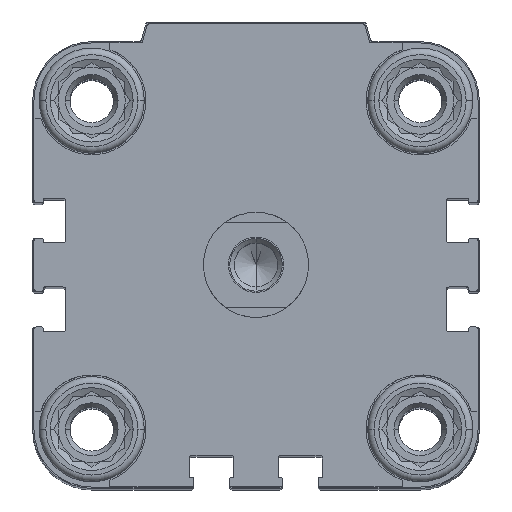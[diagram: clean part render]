
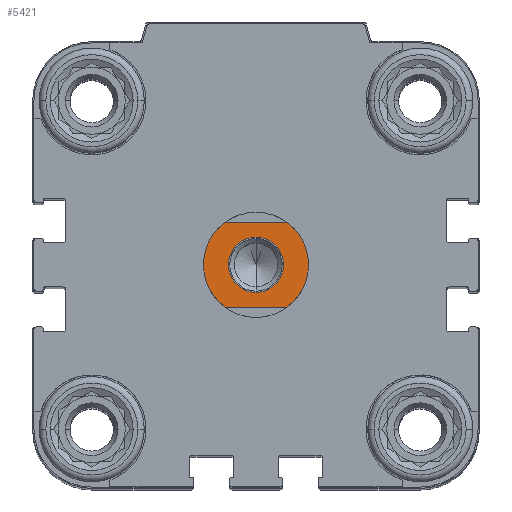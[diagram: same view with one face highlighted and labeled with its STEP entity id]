
A CAD part, top view. The second image highlights one B-rep face of the part: STEP entity #5421.
In plain terms, the highlighted planar face has unit normal (0, 0, 1).
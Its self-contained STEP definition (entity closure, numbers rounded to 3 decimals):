
#88 = ORIENTED_EDGE ( 'NONE', *, *, #9707, .F. ) ;
#279 = VERTEX_POINT ( 'NONE', #10842 ) ;
#691 = ORIENTED_EDGE ( 'NONE', *, *, #17359, .F. ) ;
#1089 = DIRECTION ( 'NONE',  ( -1., 0., 0. ) ) ;
#1255 = CARTESIAN_POINT ( 'NONE',  ( 0., 0., 7.5 ) ) ;
#1430 = CARTESIAN_POINT ( 'NONE',  ( 8., 0., 7.5 ) ) ;
#1478 = FACE_OUTER_BOUND ( 'NONE', #3623, .T. ) ;
#1593 = DIRECTION ( 'NONE',  ( 0., 1., 0. ) ) ;
#1735 = EDGE_CURVE ( 'NONE', #7851, #7926, #14762, .T. ) ;
#2166 = VERTEX_POINT ( 'NONE', #1430 ) ;
#2464 = CIRCLE ( 'NONE', #3214, 8. ) ;
#2514 = LINE ( 'NONE', #4354, #21271 ) ;
#2705 = AXIS2_PLACEMENT_3D ( 'NONE', #12377, #8724, #14096 ) ;
#2861 = DIRECTION ( 'NONE',  ( 0., 0., -1. ) ) ;
#3214 = AXIS2_PLACEMENT_3D ( 'NONE', #4078, #11058, #17702 ) ;
#3623 = EDGE_LOOP ( 'NONE', ( #88, #17843, #18413, #9790, #17869, #691 ) ) ;
#4051 = EDGE_LOOP ( 'NONE', ( #14993, #8454 ) ) ;
#4078 = CARTESIAN_POINT ( 'NONE',  ( 0., 0., 7.5 ) ) ;
#4354 = CARTESIAN_POINT ( 'NONE',  ( -13., 6.5, 7.5 ) ) ;
#5421 = ADVANCED_FACE ( 'NONE', ( #1478, #11893 ), #18985, .F. ) ;
#5668 = AXIS2_PLACEMENT_3D ( 'NONE', #21809, #18263, #13117 ) ;
#6625 = DIRECTION ( 'NONE',  ( -1., 0., 0. ) ) ;
#7209 = EDGE_CURVE ( 'NONE', #2166, #16449, #2464, .T. ) ;
#7454 = AXIS2_PLACEMENT_3D ( 'NONE', #18871, #8450, #1593 ) ;
#7659 = VERTEX_POINT ( 'NONE', #14574 ) ;
#7773 = DIRECTION ( 'NONE',  ( 1., 0., 0. ) ) ;
#7851 = VERTEX_POINT ( 'NONE', #8393 ) ;
#7926 = VERTEX_POINT ( 'NONE', #10241 ) ;
#7942 = LINE ( 'NONE', #11612, #21897 ) ;
#8393 = CARTESIAN_POINT ( 'NONE',  ( -4.664, -6.5, 7.5 ) ) ;
#8450 = DIRECTION ( 'NONE',  ( 0., 0., -1. ) ) ;
#8454 = ORIENTED_EDGE ( 'NONE', *, *, #20871, .T. ) ;
#8724 = DIRECTION ( 'NONE',  ( 0., 0., -1. ) ) ;
#8779 = DIRECTION ( 'NONE',  ( 0., 1., 0. ) ) ;
#8967 = EDGE_CURVE ( 'NONE', #16449, #7851, #7942, .T. ) ;
#9680 = VERTEX_POINT ( 'NONE', #12696 ) ;
#9707 = EDGE_CURVE ( 'NONE', #279, #9680, #2514, .T. ) ;
#9790 = ORIENTED_EDGE ( 'NONE', *, *, #8967, .F. ) ;
#10241 = CARTESIAN_POINT ( 'NONE',  ( -8., 0., 7.5 ) ) ;
#10842 = CARTESIAN_POINT ( 'NONE',  ( -4.664, 6.5, 7.5 ) ) ;
#11058 = DIRECTION ( 'NONE',  ( 0., 0., -1. ) ) ;
#11612 = CARTESIAN_POINT ( 'NONE',  ( 13., -6.5, 7.5 ) ) ;
#11893 = FACE_BOUND ( 'NONE', #4051, .T. ) ;
#12210 = EDGE_CURVE ( 'NONE', #7926, #279, #12606, .T. ) ;
#12265 = CIRCLE ( 'NONE', #2705, 4.2 ) ;
#12377 = CARTESIAN_POINT ( 'NONE',  ( 0., 0., 7.5 ) ) ;
#12606 = CIRCLE ( 'NONE', #5668, 8. ) ;
#12696 = CARTESIAN_POINT ( 'NONE',  ( 4.664, 6.5, 7.5 ) ) ;
#12972 = AXIS2_PLACEMENT_3D ( 'NONE', #22606, #13567, #19067 ) ;
#13117 = DIRECTION ( 'NONE',  ( -1., 0., 0. ) ) ;
#13567 = DIRECTION ( 'NONE',  ( 0., 0., -1. ) ) ;
#13811 = CARTESIAN_POINT ( 'NONE',  ( 0., -4.2, 7.5 ) ) ;
#14096 = DIRECTION ( 'NONE',  ( 0., 1., 0. ) ) ;
#14572 = CARTESIAN_POINT ( 'NONE',  ( 4.664, -6.5, 7.5 ) ) ;
#14574 = CARTESIAN_POINT ( 'NONE',  ( 0., 4.2, 7.5 ) ) ;
#14762 = CIRCLE ( 'NONE', #17688, 8. ) ;
#14938 = EDGE_CURVE ( 'NONE', #7659, #17474, #12265, .T. ) ;
#14993 = ORIENTED_EDGE ( 'NONE', *, *, #14938, .T. ) ;
#15075 = AXIS2_PLACEMENT_3D ( 'NONE', #15548, #19086, #8779 ) ;
#15548 = CARTESIAN_POINT ( 'NONE',  ( 0., 0., 7.5 ) ) ;
#16449 = VERTEX_POINT ( 'NONE', #14572 ) ;
#17000 = CIRCLE ( 'NONE', #12972, 8. ) ;
#17359 = EDGE_CURVE ( 'NONE', #9680, #2166, #17000, .T. ) ;
#17474 = VERTEX_POINT ( 'NONE', #13811 ) ;
#17688 = AXIS2_PLACEMENT_3D ( 'NONE', #1255, #2861, #6625 ) ;
#17702 = DIRECTION ( 'NONE',  ( -1., 0., 0. ) ) ;
#17843 = ORIENTED_EDGE ( 'NONE', *, *, #12210, .F. ) ;
#17869 = ORIENTED_EDGE ( 'NONE', *, *, #7209, .F. ) ;
#17992 = CIRCLE ( 'NONE', #15075, 4.2 ) ;
#18263 = DIRECTION ( 'NONE',  ( 0., 0., -1. ) ) ;
#18413 = ORIENTED_EDGE ( 'NONE', *, *, #1735, .F. ) ;
#18871 = CARTESIAN_POINT ( 'NONE',  ( 0., 0., 7.5 ) ) ;
#18985 = PLANE ( 'NONE',  #7454 ) ;
#19067 = DIRECTION ( 'NONE',  ( -1., 0., 0. ) ) ;
#19086 = DIRECTION ( 'NONE',  ( 0., 0., -1. ) ) ;
#20871 = EDGE_CURVE ( 'NONE', #17474, #7659, #17992, .T. ) ;
#21271 = VECTOR ( 'NONE', #7773, 1000. ) ;
#21809 = CARTESIAN_POINT ( 'NONE',  ( 0., 0., 7.5 ) ) ;
#21897 = VECTOR ( 'NONE', #1089, 1000. ) ;
#22606 = CARTESIAN_POINT ( 'NONE',  ( 0., 0., 7.5 ) ) ;
